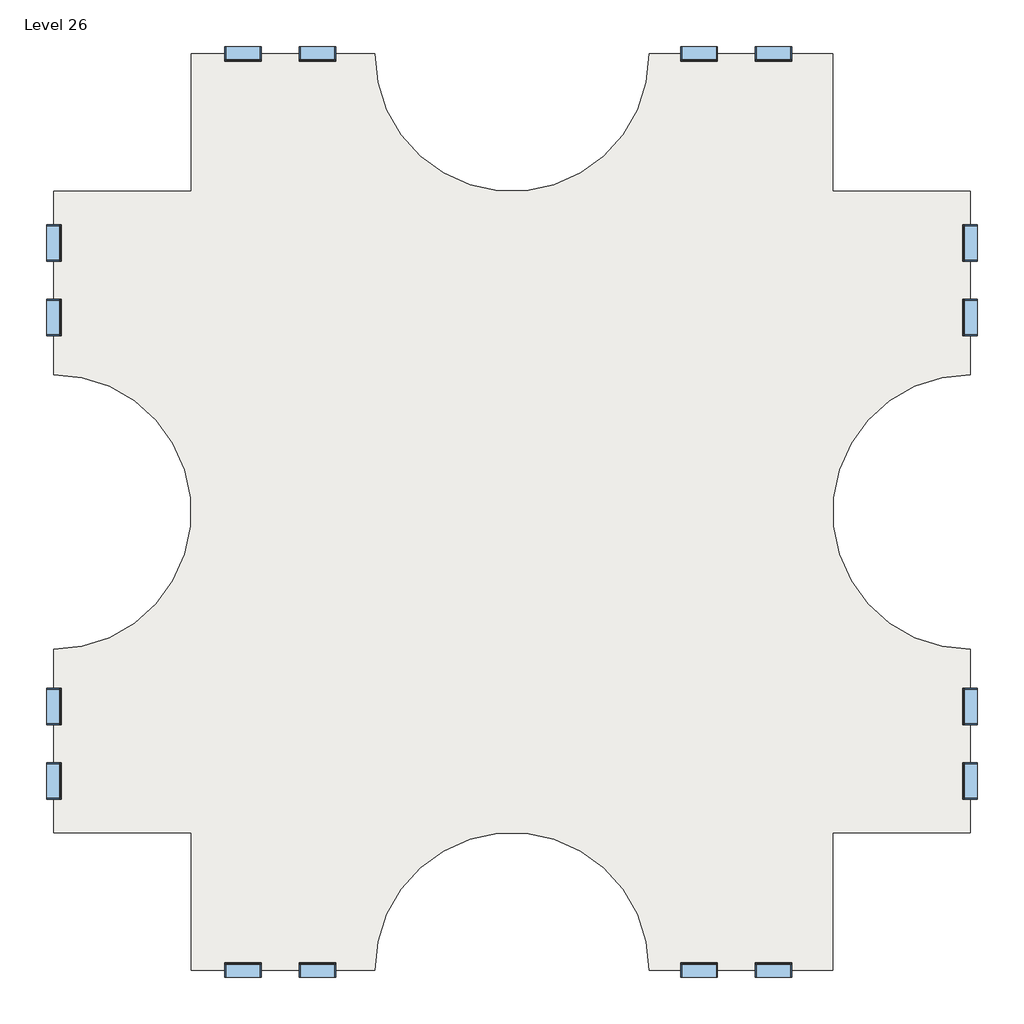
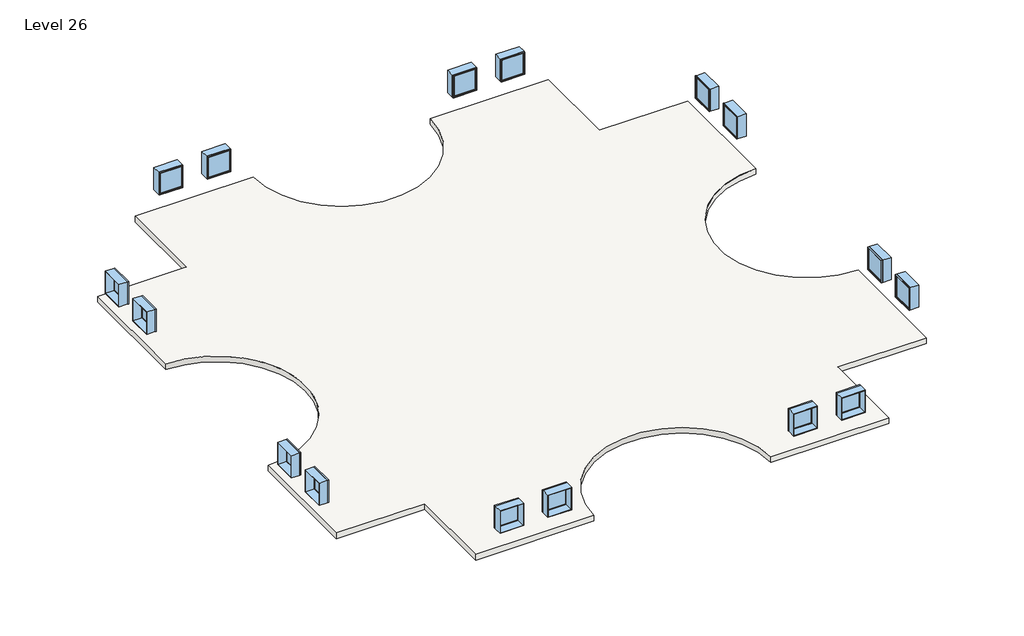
# One storey: 16 windows, 3 slabs.
"""IFC4 building model written with IfcOpenShell, lengths in millimetres."""

import ifcopenshell
import ifcopenshell.guid

model = None  # the IFC model being written
_history = None  # IfcOwnerHistory: only IFC2X3 demands one
_inside = {}  # id of a spatial element -> (the spatial element, [elements in it])
_under = {}  # id of a project, library or spatial element -> (it, [spatial elements below it])
_declared = {}  # id of a project -> (the project, [libraries it declares])
_typed = {}  # id of a type object -> (the type object, [elements of that type])
_made_of = {}  # id of a material, layer set ... -> (it, [elements and type objects made of it])


def new_model(schema):
    """Start an empty IFC model of exactly this schema.

    Asked for "IFC4X3", IfcOpenShell would pick the latest addendum, in which some entities
    have other attributes; the version numbers below select the first issue.
    IFC2X3 requires an IfcOwnerHistory on every rooted entity: one is made here for all.
    """
    global model, _history
    if schema == "IFC4X3":
        model = ifcopenshell.file(schema_version=(4, 3, 0, 0))
    else:
        model = ifcopenshell.file(schema=schema)
    _inside.clear()
    _under.clear()
    _declared.clear()
    _typed.clear()
    _made_of.clear()
    _history = None
    if model.schema == "IFC2X3":
        org = make("IfcOrganization", Name="unknown")
        user = make(
            "IfcPersonAndOrganization",
            ThePerson=make("IfcPerson", FamilyName="unknown"),
            TheOrganization=org,
        )
        app = make(
            "IfcApplication",
            ApplicationDeveloper=org,
            Version="unknown",
            ApplicationFullName="unknown",
            ApplicationIdentifier="unknown",
        )
        _history = make(
            "IfcOwnerHistory",
            OwningUser=user,
            OwningApplication=app,
            ChangeAction="ADDED",
            CreationDate=0,
        )
    return model


def make(cls, **values):
    """One entity of the class cls with the attributes given. An attribute that is None is left unset."""
    return model.create_entity(
        cls, **{name: value for name, value in values.items() if value is not None}
    )


def rooted(cls, **values):
    """An entity with a GlobalId (a new one), such as an element, a storey or a relation."""
    return make(cls, GlobalId=ifcopenshell.guid.new(), OwnerHistory=_history, **values)


def si_unit(unit_type, name, prefix=None):
    """IfcSIUnit, for example si_unit("LENGTHUNIT", "METRE", prefix="MILLI")."""
    return make("IfcSIUnit", UnitType=unit_type, Prefix=prefix, Name=name)


def assignment(units):
    """IfcUnitAssignment: the units of a project."""
    return None if units is None else make("IfcUnitAssignment", Units=units)


def point(xyz):
    """IfcCartesianPoint."""
    return None if xyz is None else make("IfcCartesianPoint", Coordinates=xyz)


def direction(xyz):
    """IfcDirection."""
    return None if xyz is None else make("IfcDirection", DirectionRatios=xyz)


def frame(location, z_axis=None, x_axis=None):
    """IfcAxis2Placement3D, a coordinate frame: its origin and axes. An axis left out is left unset."""
    return make(
        "IfcAxis2Placement3D",
        Location=point(location),
        Axis=direction(z_axis),
        RefDirection=direction(x_axis),
    )


def frame_2d(location, x_axis=None):
    """IfcAxis2Placement2D, a coordinate frame in the plane: its origin and x axis."""
    return make(
        "IfcAxis2Placement2D", Location=point(location), RefDirection=direction(x_axis)
    )


def origin():
    """The frame at (0, 0, 0) with its axes left unset."""
    return frame((0.0, 0.0, 0.0))


def place(relative_to, where):
    """IfcLocalPlacement: puts the frame where relative to a parent placement (None: the world)."""
    return make(
        "IfcLocalPlacement", PlacementRelTo=relative_to, RelativePlacement=where
    )


def context(
    kind, dimensions, precision=None, world=None, true_north=None, identifier=None
):
    """IfcGeometricRepresentationContext, for example the 3D "Model" context."""
    return make(
        "IfcGeometricRepresentationContext",
        ContextIdentifier=identifier,
        ContextType=kind,
        CoordinateSpaceDimension=dimensions,
        Precision=precision,
        WorldCoordinateSystem=world,
        TrueNorth=true_north,
    )


def project(units=None, contexts=None):
    """IfcProject with its units and contexts."""
    return rooted(
        "IfcProject",
        Name="project",
        RepresentationContexts=contexts,
        UnitsInContext=assignment(units),
    )


def spatial(cls, under=None, at=None, **own):
    """A site, building, storey or space (cls), placed at a placement, below another one or the project."""
    s = rooted(cls, ObjectPlacement=at, **own)
    if under is not None:
        _under.setdefault(under.id(), (under, []))[1].append(s)
    return s


def polyline(points):
    """IfcPolyline through the points."""
    return make("IfcPolyline", Points=[point(p) for p in points])


def circle_curve(where, radius):
    """IfcCircle in the frame where."""
    return make("IfcCircle", Position=where, Radius=radius)


def trimmed(basis, trim1, trim2, sense, master):
    """IfcTrimmedCurve: the piece of a basis curve between two trims."""
    return make(
        "IfcTrimmedCurve",
        BasisCurve=basis,
        Trim1=trim1,
        Trim2=trim2,
        SenseAgreement=sense,
        MasterRepresentation=master,
    )


def segment(curve, same_sense, transition):
    """IfcCompositeCurveSegment."""
    return make(
        "IfcCompositeCurveSegment",
        Transition=transition,
        SameSense=same_sense,
        ParentCurve=curve,
    )


def composite_curve(segments, self_intersect=None):
    """IfcCompositeCurve: segments joined end to end."""
    return make("IfcCompositeCurve", Segments=segments, SelfIntersect=self_intersect)


def outline(outer, holes=None, kind="AREA"):
    """IfcArbitraryClosedProfileDef: a profile drawn as a closed curve; with holes, ...WithVoids."""
    if holes is None:
        return make("IfcArbitraryClosedProfileDef", ProfileType=kind, OuterCurve=outer)
    return make(
        "IfcArbitraryProfileDefWithVoids",
        ProfileType=kind,
        OuterCurve=outer,
        InnerCurves=holes,
    )


def extrude(swept, where, along, depth):
    """IfcExtrudedAreaSolid: the profile swept, set in the frame where, extruded along a direction by depth."""
    return make(
        "IfcExtrudedAreaSolid",
        SweptArea=swept,
        Position=where,
        ExtrudedDirection=direction(along),
        Depth=depth,
    )


def shape(context_of_items, identifier, shape_type, items):
    """IfcShapeRepresentation: the items that make up one representation, for example the "Body"."""
    return make(
        "IfcShapeRepresentation",
        ContextOfItems=context_of_items,
        RepresentationIdentifier=identifier,
        RepresentationType=shape_type,
        Items=items,
    )


def source(mapping_origin, context_of_items, identifier, shape_type, items):
    """IfcRepresentationMap: a shape defined once, which mapped items show again and again."""
    return make(
        "IfcRepresentationMap",
        MappingOrigin=mapping_origin,
        MappedRepresentation=shape(context_of_items, identifier, shape_type, items),
    )


def transform(
    local_origin,
    x_axis=None,
    y_axis=None,
    z_axis=None,
    scale=None,
    scale2=None,
    scale3=None,
    uniform=True,
):
    """IfcCartesianTransformationOperator3D, or its non-uniform kind. x_axis, y_axis, z_axis: its Axis1, 2, 3."""
    if uniform:
        return make(
            "IfcCartesianTransformationOperator3D",
            Axis1=direction(x_axis),
            Axis2=direction(y_axis),
            LocalOrigin=point(local_origin),
            Scale=scale,
            Axis3=direction(z_axis),
        )
    return make(
        "IfcCartesianTransformationOperator3DnonUniform",
        Axis1=direction(x_axis),
        Axis2=direction(y_axis),
        LocalOrigin=point(local_origin),
        Scale=scale,
        Axis3=direction(z_axis),
        Scale2=scale2,
        Scale3=scale3,
    )


def mapped(mapping_source, mapping_target):
    """IfcMappedItem: shows the shape of a source again, moved by a transform."""
    return make(
        "IfcMappedItem", MappingSource=mapping_source, MappingTarget=mapping_target
    )


def made_of(thing, what):
    """Note that an element or type object is made of a material, layer set ...; save() writes the relation."""
    if what is not None:
        _made_of.setdefault(what.id(), (what, []))[1].append(thing)
    return thing


def element(
    cls,
    number,
    at=None,
    inside=None,
    cuts=None,
    type_object=None,
    material=None,
    context=None,
    identifier="Body",
    shape_type=None,
    held_by="IfcProductDefinitionShape",
    body=None,
    shapes=None,
    **own,
):
    """One element of the class cls, such as IfcWall. Its Tag is "e" and its number.

    at: its placement. inside: the storey or other place that contains it. cuts: it is an
    opening in that element (IfcRelVoidsElement). A single representation is given by context,
    identifier, shape_type and body (its items); several are given by shapes. held_by: the class
    of the entity that holds the representations. save() writes the other relations.
    """
    e = rooted(cls, Tag="e%d" % number, ObjectPlacement=at, **own)
    if body is not None:
        shapes = [shape(context, identifier, shape_type, body)]
    if shapes is not None:
        e.Representation = make(held_by, Representations=shapes)
    if inside is not None:
        _inside.setdefault(inside.id(), (inside, []))[1].append(e)
    if cuts is not None:
        rooted(
            "IfcRelVoidsElement", RelatingBuildingElement=cuts, RelatedOpeningElement=e
        )
    if type_object is not None:
        _typed.setdefault(type_object.id(), (type_object, []))[1].append(e)
    return made_of(e, material)


def aggregate(whole, parts):
    """IfcRelAggregates: a whole, such as a stair, and the parts it consists of."""
    return rooted("IfcRelAggregates", RelatingObject=whole, RelatedObjects=parts)


def save(model, path):
    """Write the relations noted so far, then the file.

    IfcRelAggregates (storeys below a building ...), IfcRelContainedInSpatialStructure (elements
    in a storey), IfcRelDefinesByType, IfcRelAssociatesMaterial and IfcRelDeclares: one each for
    every whole, place, type object, material and project.
    """
    for whole, parts in _under.values():
        aggregate(whole, parts)
    for where, things in _inside.values():
        rooted(
            "IfcRelContainedInSpatialStructure",
            RelatedElements=things,
            RelatingStructure=where,
        )
    for kind, things in _typed.values():
        rooted("IfcRelDefinesByType", RelatedObjects=things, RelatingType=kind)
    for what, things in _made_of.values():
        rooted("IfcRelAssociatesMaterial", RelatedObjects=things, RelatingMaterial=what)
    for by, libraries in _declared.values():
        rooted("IfcRelDeclares", RelatingContext=by, RelatedDefinitions=libraries)
    model.write(path)


def window_d0035ecf(model_context):
    return source(origin(), model_context, "Body", "SweptSolid", [
        extrude(outline(polyline([(508.0, 200.025), (-584.2, 200.025), (-584.2, 212.725), (508.0, 212.725), (508.0, 200.025)])), frame((0.0, 0.0, 977.9), z_axis=(0.0, 0.0, 1.0), x_axis=(1.0, 0.0, 0.0)), (0.0, 0.0, 1.0), 1092.2),
        extrude(outline(polyline([(2114.55, -628.65), (933.45, -628.65), (933.45, 552.45), (2114.55, 552.45), (2114.55, -628.65)]), holes=[polyline([(2070.1, -584.2), (2070.1, 508.0), (977.9, 508.0), (977.9, -584.2), (2070.1, -584.2)])]), frame((0.0, 184.15, 0.0), z_axis=(0.0, 1.0, 0.0), x_axis=(0.0, 0.0, 1.0)), (0.0, 0.0, 1.0), 44.45),
        extrude(outline(polyline([(2133.6, -647.7), (914.4, -647.7), (914.4, 571.5), (2133.6, 571.5), (2133.6, -647.7)]), holes=[polyline([(2101.85, -615.95), (2101.85, 539.75), (946.15, 539.75), (946.15, -615.95), (2101.85, -615.95)])]), frame((0.0, -247.65, 0.0), z_axis=(0.0, 1.0, 0.0), x_axis=(0.0, 0.0, 1.0)), (0.0, 0.0, 1.0), 431.8),
        extrude(outline(polyline([(2133.6, 571.5), (2133.6, -647.7), (914.4, -647.7), (914.4, 571.5), (2133.6, 571.5)]), holes=[polyline([(2114.55, 552.45), (933.45, 552.45), (933.45, -628.65), (2114.55, -628.65), (2114.55, 552.45)])]), frame((0.0, 184.15, 0.0), z_axis=(0.0, 1.0, 0.0), x_axis=(0.0, 0.0, 1.0)), (0.0, 0.0, 1.0), 63.5),
    ])


def window_d434eb62(model_context):
    return source(origin(), model_context, "Body", "SweptSolid", [
        extrude(outline(polyline([(508.0, -200.025), (508.0, -212.725), (-584.2, -212.725), (-584.2, -200.025), (508.0, -200.025)])), frame((0.0, 0.0, 977.9), z_axis=(0.0, 0.0, 1.0), x_axis=(1.0, 0.0, 0.0)), (0.0, 0.0, 1.0), 1092.2),
        extrude(outline(polyline([(2114.55, -628.65), (933.45, -628.65), (933.45, 552.45), (2114.55, 552.45), (2114.55, -628.65)]), holes=[polyline([(2070.1, -584.2), (2070.1, 508.0), (977.9, 508.0), (977.9, -584.2), (2070.1, -584.2)])]), frame((0.0, -228.6, 0.0), z_axis=(0.0, 1.0, 0.0), x_axis=(0.0, 0.0, 1.0)), (0.0, 0.0, 1.0), 44.45),
        extrude(outline(polyline([(2133.6, -647.7), (914.4, -647.7), (914.4, 571.5), (2133.6, 571.5), (2133.6, -647.7)]), holes=[polyline([(2101.85, -615.95), (2101.85, 539.75), (946.15, 539.75), (946.15, -615.95), (2101.85, -615.95)])]), frame((0.0, -184.15, 0.0), z_axis=(0.0, 1.0, 0.0), x_axis=(0.0, 0.0, 1.0)), (0.0, 0.0, 1.0), 431.8),
        extrude(outline(polyline([(2133.6, 571.5), (2133.6, -647.7), (914.4, -647.7), (914.4, 571.5), (2133.6, 571.5)]), holes=[polyline([(2114.55, 552.45), (933.45, 552.45), (933.45, -628.65), (2114.55, -628.65), (2114.55, 552.45)])]), frame((0.0, -247.65, 0.0), z_axis=(0.0, 1.0, 0.0), x_axis=(0.0, 0.0, 1.0)), (0.0, 0.0, 1.0), 63.5),
    ])


model = new_model("IFC4")

# Units and contexts
model_context = context("Model", 3, world=origin())
ifc_project = project(units=[si_unit("LENGTHUNIT", "METRE", prefix="MILLI")], contexts=[model_context])

# Site, building, storey
site = spatial("IfcSite", under=ifc_project)
building = spatial("IfcBuilding", under=site)
storey = spatial("IfcBuildingStorey", under=building, Name="Level 26", Elevation=76200.0)

# Slabs
placement = place(None, origin())
element("IfcSlab", 1, ObjectType="Generic - 12\"", at=placement, inside=storey, context=model_context, shape_type="SweptSolid", body=[
    extrude(outline(composite_curve([segment(polyline([(-7150.3629456, 4479.6634547), (-7150.3629456, 9051.6634547), (-1054.3629456, 9051.6634547)]), True, "CONTINUOUS"), segment(trimmed(circle_curve(frame_2d((3517.6370544, 9051.6634547)), 4572.0), [point((-1054.3629456, 9051.6634547))], [point((8089.6370544, 9051.6634547))], True, "CARTESIAN"), True, "CONTINUOUS"), segment(polyline([(8089.6370544, 9051.6634547), (14185.6370544, 9051.6634547), (14185.6370544, 4479.6634547), (18757.6370544, 4479.6634547), (18757.6370544, -1616.3365453)]), True, "CONTINUOUS"), segment(trimmed(circle_curve(frame_2d((18757.6370544, -6188.3365453)), 4572.0), [point((18757.6370544, -1616.3365453))], [point((18757.6370544, -10760.3365453))], True, "CARTESIAN"), True, "CONTINUOUS"), segment(polyline([(18757.6370544, -10760.3365453), (18757.6370544, -16856.3365453), (14185.6370544, -16856.3365453), (14185.6370544, -21428.3365453), (8089.6370544, -21428.3365453)]), True, "CONTINUOUS"), segment(trimmed(circle_curve(frame_2d((3517.6370544, -21428.3365453)), 4572.0), [point((8089.6370544, -21428.3365453))], [point((-1054.3629456, -21428.3365453))], True, "CARTESIAN"), True, "CONTINUOUS"), segment(polyline([(-1054.3629456, -21428.3365453), (-7150.3629456, -21428.3365453), (-7150.3629456, -16856.3365453), (-11722.3629456, -16856.3365453), (-11722.3629456, -10760.3365453)]), True, "CONTINUOUS"), segment(trimmed(circle_curve(frame_2d((-11722.3629456, -6188.3365453)), 4572.0), [point((-11722.3629456, -10760.3365453))], [point((-11722.3629456, -1616.3365453))], True, "CARTESIAN"), True, "CONTINUOUS"), segment(polyline([(-11722.3629456, -1616.3365453), (-11722.3629456, 4479.6634547), (-7150.3629456, 4479.6634547)]), True, "CONTINUOUS")], self_intersect=False)), frame((0.0, 0.0, 75895.2), z_axis=(0.0, 0.0, 1.0), x_axis=(1.0, 0.0, 0.0)), (0.0, 0.0, 1.0), 304.8),
])
element("IfcSlab", 2, ObjectType="Generic - 12\"", at=placement, inside=storey, context=model_context, shape_type="SweptSolid", body=[
    extrude(outline(composite_curve([segment(polyline([(-7150.3629456, 4479.6634547), (-7150.3629456, 9051.6634547), (-1054.3629456, 9051.6634547)]), True, "CONTINUOUS"), segment(trimmed(circle_curve(frame_2d((3517.6370544, 9051.6634547)), 4572.0), [point((-1054.3629456, 9051.6634547))], [point((8089.6370544, 9051.6634547))], True, "CARTESIAN"), True, "CONTINUOUS"), segment(polyline([(8089.6370544, 9051.6634547), (14185.6370544, 9051.6634547), (14185.6370544, 4479.6634547), (18757.6370544, 4479.6634547), (18757.6370544, -1616.3365453)]), True, "CONTINUOUS"), segment(trimmed(circle_curve(frame_2d((18757.6370544, -6188.3365453)), 4572.0), [point((18757.6370544, -1616.3365453))], [point((18757.6370544, -10760.3365453))], True, "CARTESIAN"), True, "CONTINUOUS"), segment(polyline([(18757.6370544, -10760.3365453), (18757.6370544, -16856.3365453), (14185.6370544, -16856.3365453), (14185.6370544, -21428.3365453), (8089.6370544, -21428.3365453)]), True, "CONTINUOUS"), segment(trimmed(circle_curve(frame_2d((3517.6370544, -21428.3365453)), 4572.0), [point((8089.6370544, -21428.3365453))], [point((-1054.3629456, -21428.3365453))], True, "CARTESIAN"), True, "CONTINUOUS"), segment(polyline([(-1054.3629456, -21428.3365453), (-7150.3629456, -21428.3365453), (-7150.3629456, -16856.3365453), (-11722.3629456, -16856.3365453), (-11722.3629456, -10760.3365453)]), True, "CONTINUOUS"), segment(trimmed(circle_curve(frame_2d((-11722.3629456, -6188.3365453)), 4572.0), [point((-11722.3629456, -10760.3365453))], [point((-11722.3629456, -1616.3365453))], True, "CARTESIAN"), True, "CONTINUOUS"), segment(polyline([(-11722.3629456, -1616.3365453), (-11722.3629456, 4479.6634547), (-7150.3629456, 4479.6634547)]), True, "CONTINUOUS")], self_intersect=False)), frame((0.0, 0.0, 75895.2), z_axis=(0.0, 0.0, 1.0), x_axis=(1.0, 0.0, 0.0)), (0.0, 0.0, 1.0), 304.8),
])
element("IfcSlab", 3, ObjectType="Generic - 12\"", at=placement, inside=storey, context=model_context, shape_type="SweptSolid", body=[
    extrude(outline(composite_curve([segment(polyline([(-7150.3629456, 4479.6634547), (-7150.3629456, 9051.6634547), (-1054.3629456, 9051.6634547)]), True, "CONTINUOUS"), segment(trimmed(circle_curve(frame_2d((3517.6370544, 9051.6634547)), 4572.0), [point((-1054.3629456, 9051.6634547))], [point((8089.6370544, 9051.6634547))], True, "CARTESIAN"), True, "CONTINUOUS"), segment(polyline([(8089.6370544, 9051.6634547), (14185.6370544, 9051.6634547), (14185.6370544, 4479.6634547), (18757.6370544, 4479.6634547), (18757.6370544, -1616.3365453)]), True, "CONTINUOUS"), segment(trimmed(circle_curve(frame_2d((18757.6370544, -6188.3365453)), 4572.0), [point((18757.6370544, -1616.3365453))], [point((18757.6370544, -10760.3365453))], True, "CARTESIAN"), True, "CONTINUOUS"), segment(polyline([(18757.6370544, -10760.3365453), (18757.6370544, -16856.3365453), (14185.6370544, -16856.3365453), (14185.6370544, -21428.3365453), (8089.6370544, -21428.3365453)]), True, "CONTINUOUS"), segment(trimmed(circle_curve(frame_2d((3517.6370544, -21428.3365453)), 4572.0), [point((8089.6370544, -21428.3365453))], [point((-1054.3629456, -21428.3365453))], True, "CARTESIAN"), True, "CONTINUOUS"), segment(polyline([(-1054.3629456, -21428.3365453), (-7150.3629456, -21428.3365453), (-7150.3629456, -16856.3365453), (-11722.3629456, -16856.3365453), (-11722.3629456, -10760.3365453)]), True, "CONTINUOUS"), segment(trimmed(circle_curve(frame_2d((-11722.3629456, -6188.3365453)), 4572.0), [point((-11722.3629456, -10760.3365453))], [point((-11722.3629456, -1616.3365453))], True, "CARTESIAN"), True, "CONTINUOUS"), segment(polyline([(-11722.3629456, -1616.3365453), (-11722.3629456, 4479.6634547), (-7150.3629456, 4479.6634547)]), True, "CONTINUOUS")], self_intersect=False)), frame((0.0, 0.0, 75895.2), z_axis=(0.0, 0.0, 1.0), x_axis=(1.0, 0.0, 0.0)), (0.0, 0.0, 1.0), 304.8),
])

# Windows
window_shape = window_d0035ecf(model_context)
element("IfcWindow", 4, ObjectType="Fixed : 48\" x 48\"", at=placement, inside=storey, context=model_context, shape_type="MappedRepresentation", body=[
    mapped(window_shape, transform((-11719.1879456, 247.3884547, 76200.0), x_axis=(0.0, -1.0, 0.0), y_axis=(1.0, 0.0, 0.0), z_axis=(0.0, 0.0, 1.0))),
])
element("IfcWindow", 5, ObjectType="Fixed : 48\" x 48\"", at=placement, inside=storey, context=model_context, shape_type="MappedRepresentation", body=[
    mapped(window_shape, transform((-5469.1993281, 9048.4884547, 76200.0), x_axis=(-1.0, 0.0, 0.0), y_axis=(0.0, -1.0, 0.0), z_axis=(0.0, 0.0, 1.0))),
])
element("IfcWindow", 6, ObjectType="Fixed : 48\" x 48\"", at=placement, inside=storey, context=model_context, shape_type="MappedRepresentation", body=[
    mapped(window_shape, transform((-11719.1879456, -15175.1729277, 76200.0), x_axis=(0.0, -1.0, 0.0), y_axis=(1.0, 0.0, 0.0), z_axis=(0.0, 0.0, 1.0))),
])
element("IfcWindow", 7, ObjectType="Fixed : 48\" x 48\"", at=placement, inside=storey, context=model_context, shape_type="MappedRepresentation", body=[
    mapped(window_shape, transform((-2918.0879456, -21425.1615453, 76200.0), x_axis=(1.0, 0.0, 0.0), y_axis=(0.0, 1.0, 0.0), z_axis=(0.0, 0.0, 1.0))),
])
element("IfcWindow", 8, ObjectType="Fixed : 48\" x 48\"", at=placement, inside=storey, context=model_context, shape_type="MappedRepresentation", body=[
    mapped(window_shape, transform((18754.4620544, 2798.4998372, 76200.0), x_axis=(0.0, 1.0, 0.0), y_axis=(-1.0, 0.0, 0.0), z_axis=(0.0, 0.0, 1.0))),
])
element("IfcWindow", 9, ObjectType="Fixed : 48\" x 48\"", at=placement, inside=storey, context=model_context, shape_type="MappedRepresentation", body=[
    mapped(window_shape, transform((9705.7120544, 9048.4884547, 76200.0), x_axis=(-1.0, 0.0, 0.0), y_axis=(0.0, -1.0, 0.0), z_axis=(0.0, 0.0, 1.0))),
])
element("IfcWindow", 10, ObjectType="Fixed : 48\" x 48\"", at=placement, inside=storey, context=model_context, shape_type="MappedRepresentation", body=[
    mapped(window_shape, transform((18754.4620544, -12624.0615453, 76200.0), x_axis=(0.0, 1.0, 0.0), y_axis=(-1.0, 0.0, 0.0), z_axis=(0.0, 0.0, 1.0))),
])
element("IfcWindow", 11, ObjectType="Fixed : 48\" x 48\"", at=placement, inside=storey, context=model_context, shape_type="MappedRepresentation", body=[
    mapped(window_shape, transform((12256.8234368, -21425.1615453, 76200.0), x_axis=(1.0, 0.0, 0.0), y_axis=(0.0, 1.0, 0.0), z_axis=(0.0, 0.0, 1.0))),
])
window_2_shape = window_d434eb62(model_context)
element("IfcWindow", 12, ObjectType="Fixed : 48\" x 48\"", at=placement, inside=storey, context=model_context, shape_type="MappedRepresentation", body=[
    mapped(window_2_shape, transform((-11719.1879456, 2798.4998372, 76200.0), x_axis=(0.0, 1.0, 0.0), y_axis=(-1.0, 0.0, 0.0), z_axis=(0.0, 0.0, 1.0))),
])
element("IfcWindow", 13, ObjectType="Fixed : 48\" x 48\"", at=placement, inside=storey, context=model_context, shape_type="MappedRepresentation", body=[
    mapped(window_2_shape, transform((-2918.0879456, 9048.4884547, 76200.0), x_axis=(1.0, 0.0, 0.0), y_axis=(0.0, 1.0, 0.0), z_axis=(0.0, 0.0, 1.0))),
])
element("IfcWindow", 14, ObjectType="Fixed : 48\" x 48\"", at=placement, inside=storey, context=model_context, shape_type="MappedRepresentation", body=[
    mapped(window_2_shape, transform((-11719.1879456, -12624.0615453, 76200.0), x_axis=(0.0, 1.0, 0.0), y_axis=(-1.0, 0.0, 0.0), z_axis=(0.0, 0.0, 1.0))),
])
element("IfcWindow", 15, ObjectType="Fixed : 48\" x 48\"", at=placement, inside=storey, context=model_context, shape_type="MappedRepresentation", body=[
    mapped(window_2_shape, transform((-5469.1993281, -21425.1615453, 76200.0), x_axis=(-1.0, 0.0, 0.0), y_axis=(0.0, -1.0, 0.0), z_axis=(0.0, 0.0, 1.0))),
])
element("IfcWindow", 16, ObjectType="Fixed : 48\" x 48\"", at=placement, inside=storey, context=model_context, shape_type="MappedRepresentation", body=[
    mapped(window_2_shape, transform((18754.4620544, 247.3884547, 76200.0), x_axis=(0.0, -1.0, 0.0), y_axis=(1.0, 0.0, 0.0), z_axis=(0.0, 0.0, 1.0))),
])
element("IfcWindow", 17, ObjectType="Fixed : 48\" x 48\"", at=placement, inside=storey, context=model_context, shape_type="MappedRepresentation", body=[
    mapped(window_2_shape, transform((12256.8234368, 9048.4884547, 76200.0), x_axis=(1.0, 0.0, 0.0), y_axis=(0.0, 1.0, 0.0), z_axis=(0.0, 0.0, 1.0))),
])
element("IfcWindow", 18, ObjectType="Fixed : 48\" x 48\"", at=placement, inside=storey, context=model_context, shape_type="MappedRepresentation", body=[
    mapped(window_2_shape, transform((18754.4620544, -15175.1729277, 76200.0), x_axis=(0.0, -1.0, 0.0), y_axis=(1.0, 0.0, 0.0), z_axis=(0.0, 0.0, 1.0))),
])
element("IfcWindow", 19, ObjectType="Fixed : 48\" x 48\"", at=placement, inside=storey, context=model_context, shape_type="MappedRepresentation", body=[
    mapped(window_2_shape, transform((9705.7120544, -21425.1615453, 76200.0), x_axis=(-1.0, 0.0, 0.0), y_axis=(0.0, -1.0, 0.0), z_axis=(0.0, 0.0, 1.0))),
])

save(model, "model.ifc")
